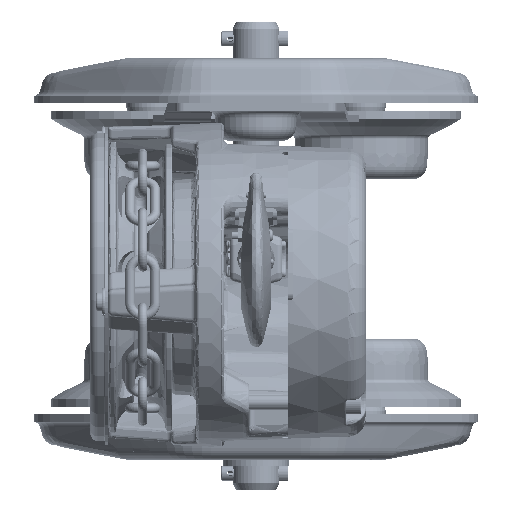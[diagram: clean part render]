
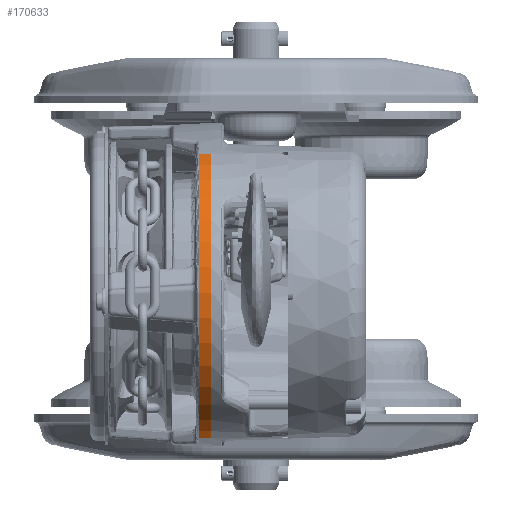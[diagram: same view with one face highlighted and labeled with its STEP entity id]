
A CAD part, front view. The second image highlights one B-rep face of the part: STEP entity #170633.
In plain terms, the highlighted conical face has half-angle 2.083 degrees and reference radius 79 mm.
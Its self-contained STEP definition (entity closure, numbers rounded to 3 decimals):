
#1824 = CONICAL_SURFACE ( 'NONE', #259037, 79., 0.036 ) ;
#11438 = VERTEX_POINT ( 'NONE', #184873 ) ;
#17459 = ORIENTED_EDGE ( 'NONE', *, *, #299043, .T. ) ;
#18064 = LINE ( 'NONE', #311266, #105032 ) ;
#46221 = DIRECTION ( 'NONE',  ( 0., 0., 1. ) ) ;
#47710 = CIRCLE ( 'NONE', #253590, 78.779 ) ;
#53402 = LINE ( 'NONE', #175840, #157619 ) ;
#56568 = EDGE_LOOP ( 'NONE', ( #90540, #142856, #92480, #17459 ) ) ;
#63180 = VERTEX_POINT ( 'NONE', #156168 ) ;
#81340 = CARTESIAN_POINT ( 'NONE',  ( -75.785, -53.514, -13.073 ) ) ;
#84457 = DIRECTION ( 'NONE',  ( 0., 0., 1. ) ) ;
#90540 = ORIENTED_EDGE ( 'NONE', *, *, #271984, .T. ) ;
#92480 = ORIENTED_EDGE ( 'NONE', *, *, #181019, .F. ) ;
#94595 = DIRECTION ( 'NONE',  ( 1., 0., 0. ) ) ;
#105032 = VECTOR ( 'NONE', #116372, 1000. ) ;
#116372 = DIRECTION ( 'NONE',  ( 0.035, 0.01, -0.999 ) ) ;
#138842 = VERTEX_POINT ( 'NONE', #81340 ) ;
#142856 = ORIENTED_EDGE ( 'NONE', *, *, #259271, .T. ) ;
#150777 = DIRECTION ( 'NONE',  ( 0., 0., -1. ) ) ;
#156168 = CARTESIAN_POINT ( 'NONE',  ( 75.785, -53.514, -13.073 ) ) ;
#157619 = VECTOR ( 'NONE', #196879, 1000. ) ;
#170633 = ADVANCED_FACE ( 'NONE', ( #287888 ), #1824, .T. ) ;
#175840 = CARTESIAN_POINT ( 'NONE',  ( 75.997, -53.574, -7. ) ) ;
#181019 = EDGE_CURVE ( 'NONE', #241898, #63180, #53402, .T. ) ;
#184873 = CARTESIAN_POINT ( 'NONE',  ( -75.997, -53.574, -7. ) ) ;
#196879 = DIRECTION ( 'NONE',  ( -0.035, 0.01, -0.999 ) ) ;
#200664 = CARTESIAN_POINT ( 'NONE',  ( 0., -32., -7. ) ) ;
#238035 = AXIS2_PLACEMENT_3D ( 'NONE', #200664, #150777, #241403 ) ;
#241403 = DIRECTION ( 'NONE',  ( -1., 0., 0. ) ) ;
#241898 = VERTEX_POINT ( 'NONE', #273519 ) ;
#253590 = AXIS2_PLACEMENT_3D ( 'NONE', #282540, #84457, #280981 ) ;
#259037 = AXIS2_PLACEMENT_3D ( 'NONE', #289495, #46221, #94595 ) ;
#259271 = EDGE_CURVE ( 'NONE', #138842, #63180, #47710, .T. ) ;
#271984 = EDGE_CURVE ( 'NONE', #11438, #138842, #18064, .T. ) ;
#273519 = CARTESIAN_POINT ( 'NONE',  ( 75.997, -53.574, -7. ) ) ;
#279203 = CIRCLE ( 'NONE', #238035, 79. ) ;
#280981 = DIRECTION ( 'NONE',  ( 1., 0., 0. ) ) ;
#282540 = CARTESIAN_POINT ( 'NONE',  ( 0., -32., -13.073 ) ) ;
#287888 = FACE_OUTER_BOUND ( 'NONE', #56568, .T. ) ;
#289495 = CARTESIAN_POINT ( 'NONE',  ( 0., -32., -7. ) ) ;
#299043 = EDGE_CURVE ( 'NONE', #241898, #11438, #279203, .T. ) ;
#311266 = CARTESIAN_POINT ( 'NONE',  ( -75.997, -53.574, -7. ) ) ;
